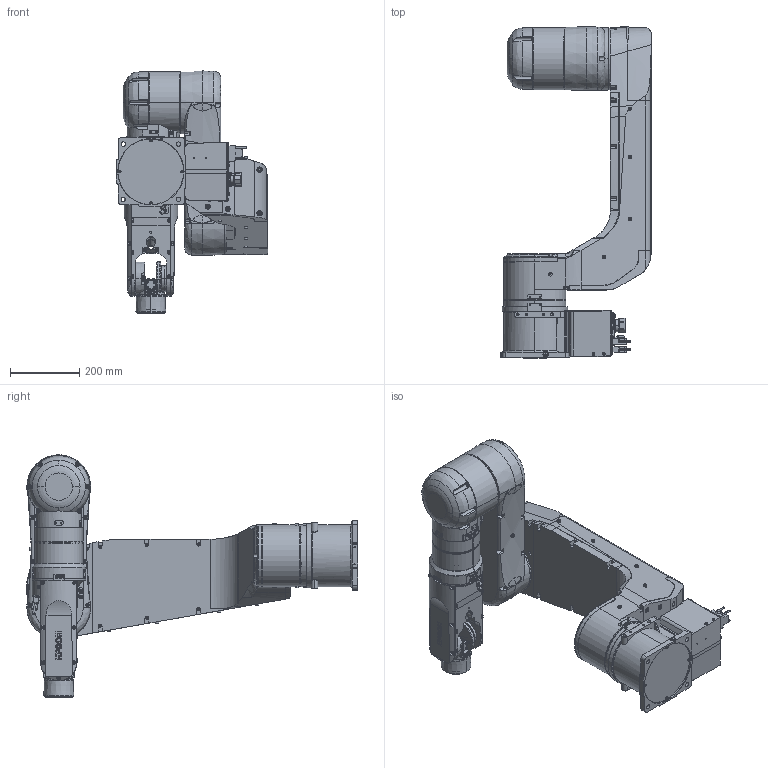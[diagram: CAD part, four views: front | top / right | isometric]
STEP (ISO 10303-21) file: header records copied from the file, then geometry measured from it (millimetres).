
FILE_DESCRIPTION (( 'STEP AP214' ), '1' );
FILE_NAME ('N6-1000SR_step.STEP', '2018-07-06T19:59:43', ( '' ), ( '' ), 'SwSTEP 2.0', 'SolidWorks 2013', '' );
FILE_SCHEMA (( 'AUTOMOTIVE_DESIGN' ));
Length unit declared in the file: millimetre
Products named in the file (8): ARM1; BASE_1; N6-1000SR_step; ARM6; ARM5; ARM4; ARM3; ARM2
Assembly tree (7 placements, depth 2):
  N6-1000SR_step
    BASE_1
    ARM1
    ARM2
    ARM3
    ARM4
    ARM5
    ARM6
Bounding box: 438.26 x 962 x 702.5 mm (x, y, z)
Volume: 53008515.3 mm3; surface area: 2789320.9 mm2
Topology: 7 solids, 7 shells, 4966 faces, 12940 edges, 8373 vertices
Faces by surface type: plane 2704, cylinder 1454, cone 490, bspline 314, torus 4
Entity records: 234907 total; most frequent: CARTESIAN_POINT 62084, ORIENTED_EDGE 25612, DIRECTION 22923, EDGE_CURVE 12806, VERTEX_POINT 8373, AXIS2_PLACEMENT_3D 7883, LINE 7157, VECTOR 7157
